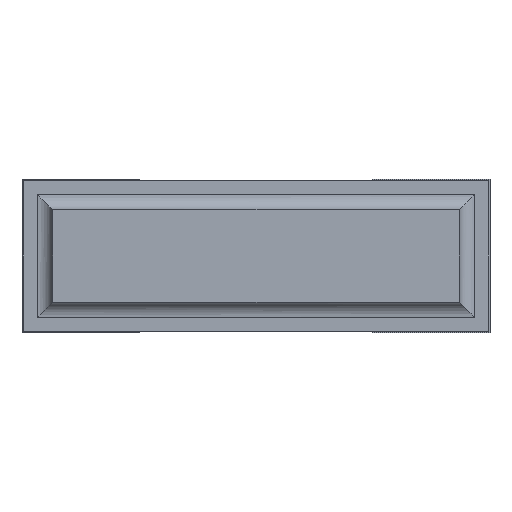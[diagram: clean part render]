
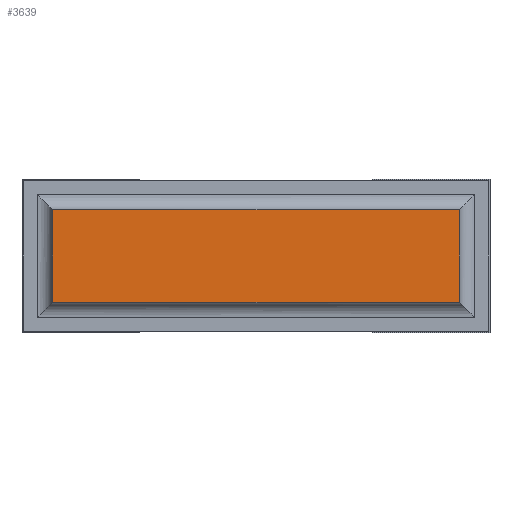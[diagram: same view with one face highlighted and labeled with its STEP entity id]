
A CAD part, front view. The second image highlights one B-rep face of the part: STEP entity #3639.
In plain terms, the highlighted planar face has unit normal (0, -1, 0).
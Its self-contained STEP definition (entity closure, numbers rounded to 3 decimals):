
#86=PLANE('',#3877);
#249=FACE_OUTER_BOUND('',#454,.T.);
#454=EDGE_LOOP('',(#2567,#2568,#2569,#2570));
#646=LINE('',#5165,#1114);
#650=LINE('',#5175,#1118);
#673=LINE('',#5224,#1141);
#676=LINE('',#5234,#1144);
#1114=VECTOR('',#4142,10.);
#1118=VECTOR('',#4152,10.);
#1141=VECTOR('',#4193,10.);
#1144=VECTOR('',#4208,10.);
#1607=VERTEX_POINT('',#5162);
#1608=VERTEX_POINT('',#5164);
#1611=VERTEX_POINT('',#5174);
#1628=VERTEX_POINT('',#5221);
#1960=EDGE_CURVE('',#1608,#1607,#646,.T.);
#1965=EDGE_CURVE('',#1611,#1608,#650,.T.);
#1990=EDGE_CURVE('',#1628,#1611,#673,.T.);
#1995=EDGE_CURVE('',#1607,#1628,#676,.T.);
#2567=ORIENTED_EDGE('',*,*,#1960,.T.);
#2568=ORIENTED_EDGE('',*,*,#1995,.T.);
#2569=ORIENTED_EDGE('',*,*,#1990,.T.);
#2570=ORIENTED_EDGE('',*,*,#1965,.T.);
#3639=ADVANCED_FACE('',(#249),#86,.T.);
#3877=AXIS2_PLACEMENT_3D('',#5239,#4214,#4215);
#4142=DIRECTION('',(0.,0.,-1.));
#4152=DIRECTION('',(-1.,0.,0.));
#4193=DIRECTION('',(0.,0.,1.));
#4208=DIRECTION('',(1.,0.,0.));
#4214=DIRECTION('center_axis',(0.,-1.,0.));
#4215=DIRECTION('ref_axis',(0.,0.,-1.));
#5162=CARTESIAN_POINT('',(0.1,0.,0.1));
#5164=CARTESIAN_POINT('',(0.1,0.,0.4));
#5165=CARTESIAN_POINT('',(0.1,0.,0.4));
#5174=CARTESIAN_POINT('',(1.42,0.,0.4));
#5175=CARTESIAN_POINT('',(1.42,0.,0.4));
#5221=CARTESIAN_POINT('',(1.42,0.,0.1));
#5224=CARTESIAN_POINT('',(1.42,0.,0.1));
#5234=CARTESIAN_POINT('',(0.1,0.,0.1));
#5239=CARTESIAN_POINT('Origin',(0.1,0.,0.25));
